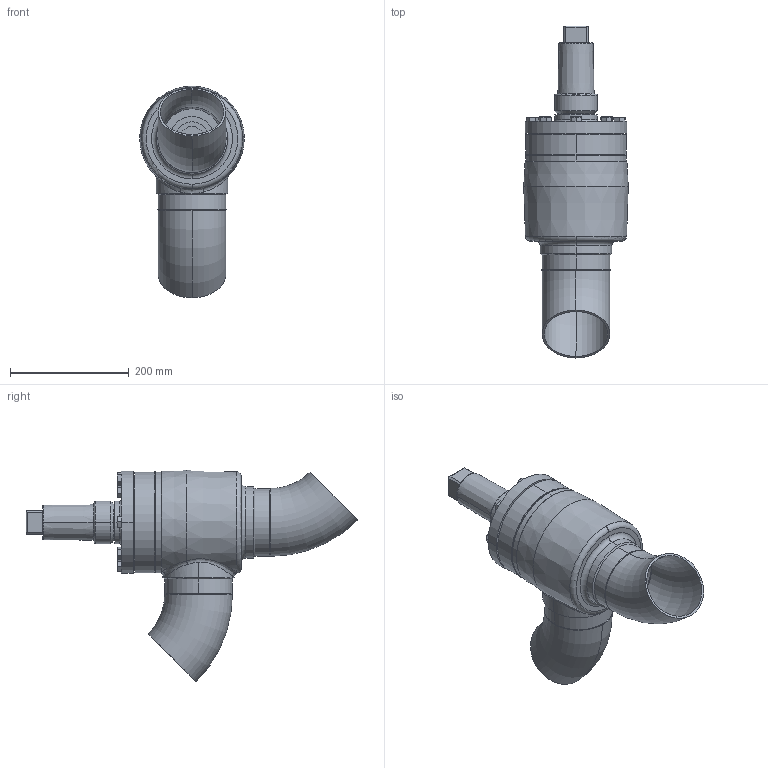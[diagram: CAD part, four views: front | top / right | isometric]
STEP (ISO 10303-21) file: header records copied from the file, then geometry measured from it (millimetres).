
FILE_DESCRIPTION (( 'STEP AP214' ), '1' );
FILE_NAME ('HRAR22300D19-DN100_R1_PS40.STEP', '2007-01-08T07:13:43', ( 'Herr Grams' ), ( 'AWP GmbH' ), 'SwSTEP 2.0', 'SolidWorks 2002296', '' );
FILE_SCHEMA (( 'AUTOMOTIVE_DESIGN' ));
Length unit declared in the file: millimetre
Products named in the file (13): bead-DN100-1_Standard; bead-DN100-3_Standard; bead-DN100-2_Standard; AVR26300E19_Deck+Schr-DN100_Standard; Deckel26300E19-DN100_Standard; Sechskantschraube-DIN933_M12x 35; Kappe16402_DN080-100_Standard; HRAR22300D19-DN100_R1_PS40; Gehäuse-kpl16300-DN100_R1_Standard; Rohrbogen 45°_Rohrbogen-DN100-45°; Gehäuse-kpl16400-DN100_R1_Standard; Kopfstück16300-DN100_Standard; Gehäuse16400-DN100_Standard
Assembly tree (20 placements, depth 4):
  HRAR22300D19-DN100_R1_PS40
    AVR26300E19_Deck+Schr-DN100_Standard
      Sechskantschraube-DIN933_M12x 35  x8
      Deckel26300E19-DN100_Standard
    Kappe16402_DN080-100_Standard
    Gehäuse-kpl16300-DN100_R1_Standard
      bead-DN100-3_Standard
      Rohrbogen 45°_Rohrbogen-DN100-45°  x2
      Gehäuse-kpl16400-DN100_R1_Standard
        Gehäuse16400-DN100_Standard
        Kopfstück16300-DN100_Standard
        bead-DN100-1_Standard
      bead-DN100-2_Standard
Bounding box: 176.38 x 559.89 x 357.12 mm (x, y, z)
Volume: 3205392.7 mm3; surface area: 632446.8 mm2
Topology: 17 solids, 17 shells, 379 faces, 810 edges, 489 vertices
Faces by surface type: cone 134, plane 112, cylinder 95, torus 20, bspline 18
Entity records: 18880 total; most frequent: CARTESIAN_POINT 13656, DIRECTION 967, ORIENTED_EDGE 868, EDGE_CURVE 434, AXIS2_PLACEMENT_3D 424, VERTEX_POINT 271, EDGE_LOOP 245, CIRCLE 218
